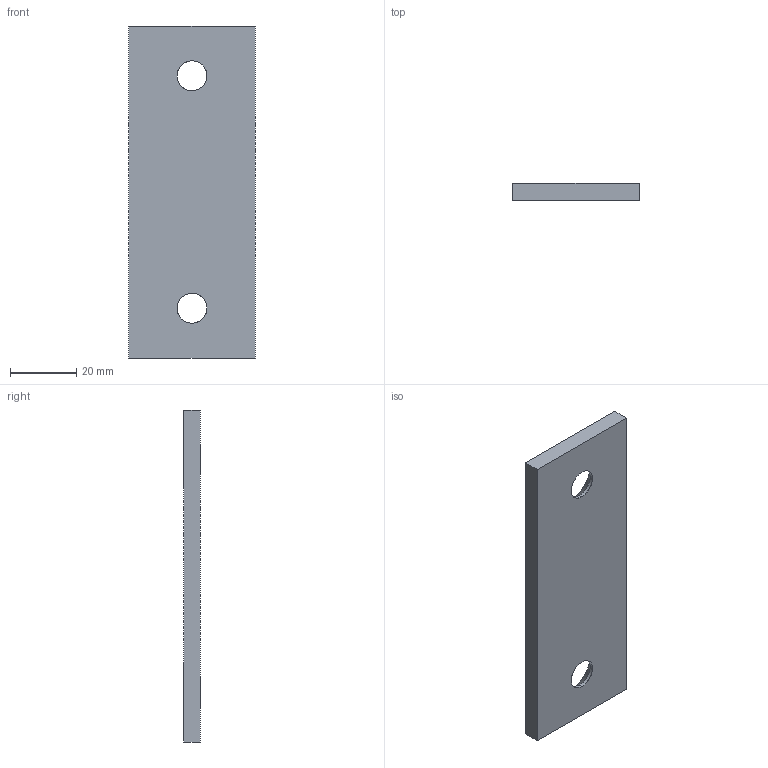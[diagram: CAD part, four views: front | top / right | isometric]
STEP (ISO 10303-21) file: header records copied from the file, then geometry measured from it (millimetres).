
FILE_DESCRIPTION(('CATIA V5 STEP Exchange'),'2;1');
FILE_NAME('C:\Users\Utente\Desktop\3D files A605\A605-038-100.stp','2020-04-13T15:44:38+00:00',('none'),('none'),'CATIA Version 5 Release 20 GA (IN-10)','CATIA V5 STEP AP203','none');
FILE_SCHEMA(('CONFIG_CONTROL_DESIGN'));
Length unit declared in the file: millimetre
Products named in the file (1): Noname
Bounding box: 38 x 5 x 100 mm (x, y, z)
Surface area: 8917.4 mm2 (no closed solid volume)
Topology: 0 solids, 10 shells, 14 faces, 56 edges, 48 vertices
Faces by surface type: extrusion 6, cylinder 4, revolution 4
Entity records: 726 total; most frequent: CARTESIAN_POINT 233, DIRECTION 66, ORIENTED_EDGE 64, EDGE_CURVE 56, VERTEX_POINT 48, VECTOR 38, LINE 32, AXIS2_PLACEMENT_3D 21
